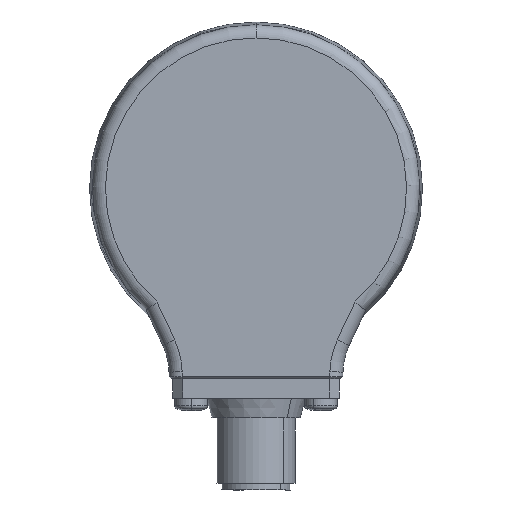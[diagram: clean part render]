
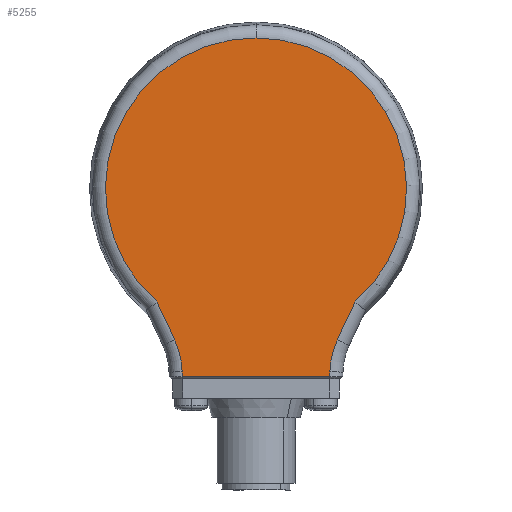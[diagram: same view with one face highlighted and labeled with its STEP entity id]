
A CAD part, left-side view. The second image highlights one B-rep face of the part: STEP entity #5255.
In plain terms, the highlighted planar face has unit normal (-1, 0, 0).
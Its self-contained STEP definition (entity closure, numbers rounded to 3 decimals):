
#1535 = DIRECTION ( 'NONE',  ( 0., 0., 1. ) ) ;
#1572 = DIRECTION ( 'NONE',  ( 1., 0., 0. ) ) ;
#1626 = CARTESIAN_POINT ( 'NONE',  ( -21., 23.266, -28.183 ) ) ;
#1627 = AXIS2_PLACEMENT_3D ( 'NONE', #1626, #1572, #1535 ) ;
#1629 = CIRCLE ( 'NONE', #1627, 12. ) ;
#2715 = CARTESIAN_POINT ( 'NONE',  ( -21., -11.268, -27.974 ) ) ;
#3169 = CARTESIAN_POINT ( 'NONE',  ( -21., 15.091, -17.32 ) ) ;
#3170 = CARTESIAN_POINT ( 'NONE',  ( -21., 0., 22.972 ) ) ;
#3171 = DIRECTION ( 'NONE',  ( 0., 0., 1. ) ) ;
#3172 = DIRECTION ( 'NONE',  ( -1., 0., 0. ) ) ;
#3173 = CARTESIAN_POINT ( 'NONE',  ( -21., 0., 0. ) ) ;
#3174 = AXIS2_PLACEMENT_3D ( 'NONE', #3173, #3172, #3171 ) ;
#3179 = CIRCLE ( 'NONE', #3174, 22.972 ) ;
#3439 = CARTESIAN_POINT ( 'NONE',  ( -21., -12.39, -23.112 ) ) ;
#3740 = DIRECTION ( 'NONE',  ( 0., 0., 1. ) ) ;
#3741 = DIRECTION ( 'NONE',  ( 1., 0., 0. ) ) ;
#3742 = CARTESIAN_POINT ( 'NONE',  ( -21., -23.266, -28.183 ) ) ;
#3743 = AXIS2_PLACEMENT_3D ( 'NONE', #3742, #3741, #3740 ) ;
#3744 = CIRCLE ( 'NONE', #3743, 12. ) ;
#4166 = DIRECTION ( 'NONE',  ( 0., 0., 1. ) ) ;
#4167 = DIRECTION ( 'NONE',  ( -1., 0., 0. ) ) ;
#4168 = CARTESIAN_POINT ( 'NONE',  ( -21., 0., 0. ) ) ;
#4169 = AXIS2_PLACEMENT_3D ( 'NONE', #4168, #4167, #4166 ) ;
#4174 = CIRCLE ( 'NONE', #4169, 22.972 ) ;
#4189 = CARTESIAN_POINT ( 'NONE',  ( -21., -15.091, -17.32 ) ) ;
#4206 = DIRECTION ( 'NONE',  ( 0., -0.423, 0.906 ) ) ;
#4207 = VECTOR ( 'NONE', #4206, 1000. ) ;
#4208 = CARTESIAN_POINT ( 'NONE',  ( -21., -14.953, -17.615 ) ) ;
#4209 = LINE ( 'NONE', #4208, #4207 ) ;
#4788 = VERTEX_POINT ( 'NONE', #7590 ) ;
#4805 = EDGE_CURVE ( 'NONE', #7351, #4788, #7589, .T. ) ;
#4806 = VERTEX_POINT ( 'NONE', #7585 ) ;
#4876 = EDGE_CURVE ( 'NONE', #4788, #4806, #1629, .T. ) ;
#5255 = ADVANCED_FACE ( 'NONE', ( #9877 ), #9854, .F. ) ;
#5256 = ORIENTED_EDGE ( 'NONE', *, *, #5260, .T. ) ;
#5257 = ORIENTED_EDGE ( 'NONE', *, *, #6196, .T. ) ;
#5258 = ORIENTED_EDGE ( 'NONE', *, *, #5259, .T. ) ;
#5259 = EDGE_CURVE ( 'NONE', #6122, #7153, #9913, .T. ) ;
#5260 = EDGE_CURVE ( 'NONE', #4806, #6094, #9902, .T. ) ;
#5261 = ORIENTED_EDGE ( 'NONE', *, *, #7548, .T. ) ;
#5262 = ORIENTED_EDGE ( 'NONE', *, *, #7707, .T. ) ;
#5263 = ORIENTED_EDGE ( 'NONE', *, *, #7702, .T. ) ;
#5264 = ORIENTED_EDGE ( 'NONE', *, *, #7349, .T. ) ;
#5265 = ORIENTED_EDGE ( 'NONE', *, *, #4805, .T. ) ;
#5266 = ORIENTED_EDGE ( 'NONE', *, *, #4876, .T. ) ;
#5273 = EDGE_LOOP ( 'NONE', ( #5256, #5257, #5258, #5261, #5262, #5263, #5264, #5265, #5266 ) ) ;
#6094 = VERTEX_POINT ( 'NONE', #6174 ) ;
#6122 = VERTEX_POINT ( 'NONE', #10904 ) ;
#6174 = CARTESIAN_POINT ( 'NONE',  ( -21., 11.255, -28.695 ) ) ;
#6196 = EDGE_CURVE ( 'NONE', #6094, #6122, #8486, .T. ) ;
#7153 = VERTEX_POINT ( 'NONE', #2715 ) ;
#7349 = EDGE_CURVE ( 'NONE', #7350, #7351, #3179, .T. ) ;
#7350 = VERTEX_POINT ( 'NONE', #3170 ) ;
#7351 = VERTEX_POINT ( 'NONE', #3169 ) ;
#7419 = VERTEX_POINT ( 'NONE', #3439 ) ;
#7548 = EDGE_CURVE ( 'NONE', #7153, #7419, #3744, .T. ) ;
#7585 = CARTESIAN_POINT ( 'NONE',  ( -21., 11.268, -27.974 ) ) ;
#7586 = DIRECTION ( 'NONE',  ( 0., -0.423, -0.906 ) ) ;
#7587 = VECTOR ( 'NONE', #7586, 1000. ) ;
#7588 = CARTESIAN_POINT ( 'NONE',  ( -21., 12.39, -23.112 ) ) ;
#7589 = LINE ( 'NONE', #7588, #7587 ) ;
#7590 = CARTESIAN_POINT ( 'NONE',  ( -21., 12.39, -23.112 ) ) ;
#7702 = EDGE_CURVE ( 'NONE', #7709, #7350, #4174, .T. ) ;
#7707 = EDGE_CURVE ( 'NONE', #7419, #7709, #4209, .T. ) ;
#7709 = VERTEX_POINT ( 'NONE', #4189 ) ;
#8483 = DIRECTION ( 'NONE',  ( 0., -1., 0. ) ) ;
#8484 = VECTOR ( 'NONE', #8483, 1000. ) ;
#8485 = CARTESIAN_POINT ( 'NONE',  ( -21., -11.25, -28.695 ) ) ;
#8486 = LINE ( 'NONE', #8485, #8484 ) ;
#9854 = PLANE ( 'NONE',  #9881 ) ;
#9877 = FACE_OUTER_BOUND ( 'NONE', #5273, .T. ) ;
#9881 = AXIS2_PLACEMENT_3D ( 'NONE', #9886, #9885, #9884 ) ;
#9884 = DIRECTION ( 'NONE',  ( 0., 0., 1. ) ) ;
#9885 = DIRECTION ( 'NONE',  ( 1., 0., 0. ) ) ;
#9886 = CARTESIAN_POINT ( 'NONE',  ( -21., 0., 0. ) ) ;
#9893 = VECTOR ( 'NONE', #9914, 1000. ) ;
#9901 = CARTESIAN_POINT ( 'NONE',  ( -21., 11.752, -0.205 ) ) ;
#9902 = LINE ( 'NONE', #9901, #9918 ) ;
#9913 = LINE ( 'NONE', #9915, #9893 ) ;
#9914 = DIRECTION ( 'NONE',  ( 0., -0.017, 1. ) ) ;
#9915 = CARTESIAN_POINT ( 'NONE',  ( -21., -11.752, -0.205 ) ) ;
#9918 = VECTOR ( 'NONE', #9934, 1000. ) ;
#9934 = DIRECTION ( 'NONE',  ( 0., -0.017, -1. ) ) ;
#10904 = CARTESIAN_POINT ( 'NONE',  ( -21., -11.255, -28.695 ) ) ;
